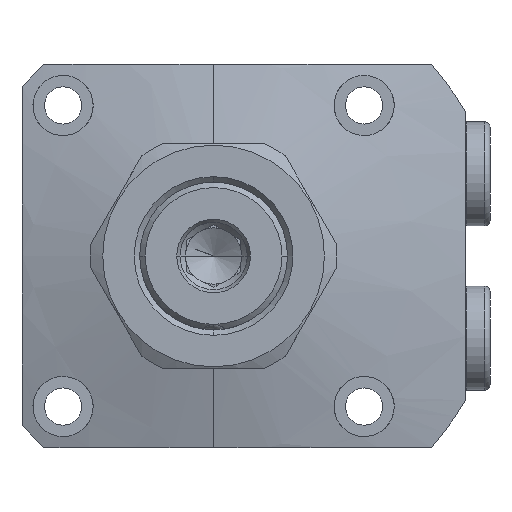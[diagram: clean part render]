
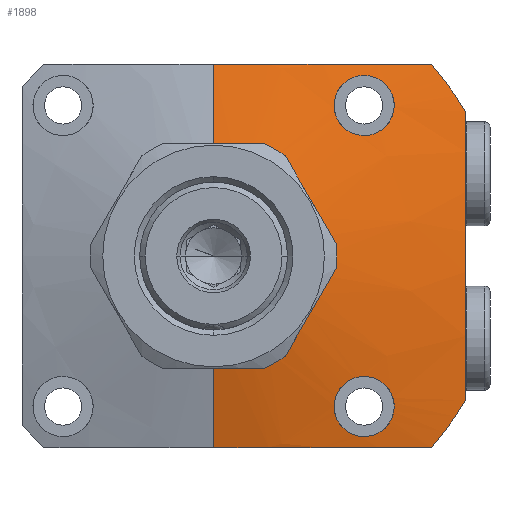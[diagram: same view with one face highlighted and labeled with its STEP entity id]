
A CAD part, left-side view. The second image highlights one B-rep face of the part: STEP entity #1898.
In plain terms, the highlighted conical face has half-angle 75 degrees and reference radius 20 mm.
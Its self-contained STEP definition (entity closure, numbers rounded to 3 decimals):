
#865=CONICAL_SURFACE('',#5699,20.,75.);
#932=B_SPLINE_CURVE_WITH_KNOTS('',3,(#8356,#8357,#8358,#8359,#8360,#8361,
#8362,#8363,#8364,#8365),.UNSPECIFIED.,.F.,.F.,(4,2,2,2,4),(0.,0.25,0.5,
0.75,1.),.UNSPECIFIED.);
#934=B_SPLINE_CURVE_WITH_KNOTS('',3,(#8392,#8393,#8394,#8395,#8396,#8397,
#8398,#8399,#8400,#8401),.UNSPECIFIED.,.F.,.F.,(4,2,2,2,4),(0.,0.25,0.5,
0.75,1.),.UNSPECIFIED.);
#946=B_SPLINE_CURVE_WITH_KNOTS('',3,(#8816,#8817,#8818,#8819),
 .UNSPECIFIED.,.F.,.F.,(4,4),(0.,1.),.UNSPECIFIED.);
#947=B_SPLINE_CURVE_WITH_KNOTS('',3,(#8820,#8821,#8822,#8823,#8824),
 .UNSPECIFIED.,.F.,.F.,(4,1,4),(0.,0.5,1.),.UNSPECIFIED.);
#948=B_SPLINE_CURVE_WITH_KNOTS('',3,(#8825,#8826,#8827,#8828),
 .UNSPECIFIED.,.F.,.F.,(4,4),(0.,1.),.UNSPECIFIED.);
#949=B_SPLINE_CURVE_WITH_KNOTS('',3,(#8829,#8830,#8831,#8832,#8833,#8834,
#8835,#8836,#8837,#8838),.UNSPECIFIED.,.F.,.F.,(4,2,2,2,4),(0.,0.25,0.5,
0.75,1.),.UNSPECIFIED.);
#950=B_SPLINE_CURVE_WITH_KNOTS('',3,(#8839,#8840,#8841,#8842,#8843,#8844,
#8845,#8846,#8847,#8848),.UNSPECIFIED.,.F.,.F.,(4,2,2,2,4),(0.,0.25,0.5,
0.75,1.),.UNSPECIFIED.);
#1162=FACE_BOUND('',#2513,.T.);
#1163=FACE_BOUND('',#2514,.T.);
#1164=FACE_BOUND('',#2515,.T.);
#1402=LINE('',#8471,#1630);
#1403=LINE('',#8500,#1631);
#1630=VECTOR('',#6541,1.);
#1631=VECTOR('',#6542,1.);
#1898=ADVANCED_FACE('',(#1162,#1163,#1164),#865,.T.);
#2513=EDGE_LOOP('',(#3392,#3393,#3394,#3395,#3396,#3397,#3398,#3399));
#2514=EDGE_LOOP('',(#3400,#3401));
#2515=EDGE_LOOP('',(#3402,#3403));
#3392=ORIENTED_EDGE('',*,*,#4638,.T.);
#3393=ORIENTED_EDGE('',*,*,#4769,.F.);
#3394=ORIENTED_EDGE('',*,*,#4644,.F.);
#3395=ORIENTED_EDGE('',*,*,#4770,.T.);
#3396=ORIENTED_EDGE('',*,*,#4768,.T.);
#3397=ORIENTED_EDGE('',*,*,#4771,.T.);
#3398=ORIENTED_EDGE('',*,*,#4735,.T.);
#3399=ORIENTED_EDGE('',*,*,#4772,.T.);
#3400=ORIENTED_EDGE('',*,*,#4773,.F.);
#3401=ORIENTED_EDGE('',*,*,#4609,.F.);
#3402=ORIENTED_EDGE('',*,*,#4774,.F.);
#3403=ORIENTED_EDGE('',*,*,#4617,.F.);
#4125=VERTEX_POINT('',#8355);
#4126=VERTEX_POINT('',#8366);
#4133=VERTEX_POINT('',#8391);
#4134=VERTEX_POINT('',#8402);
#4149=VERTEX_POINT('',#8469);
#4150=VERTEX_POINT('',#8470);
#4151=VERTEX_POINT('',#8472);
#4156=VERTEX_POINT('',#8499);
#4223=VERTEX_POINT('',#8713);
#4225=VERTEX_POINT('',#8716);
#4233=VERTEX_POINT('',#8810);
#4234=VERTEX_POINT('',#8812);
#4609=EDGE_CURVE('',#4125,#4126,#932,.T.);
#4617=EDGE_CURVE('',#4133,#4134,#934,.T.);
#4638=EDGE_CURVE('',#4151,#4149,#1402,.T.);
#4644=EDGE_CURVE('',#4156,#4150,#1403,.T.);
#4735=EDGE_CURVE('',#4225,#4223,#5180,.T.);
#4768=EDGE_CURVE('',#4233,#4234,#5203,.T.);
#4769=EDGE_CURVE('',#4150,#4149,#5204,.T.);
#4770=EDGE_CURVE('',#4156,#4233,#946,.T.);
#4771=EDGE_CURVE('',#4234,#4225,#947,.T.);
#4772=EDGE_CURVE('',#4223,#4151,#948,.T.);
#4773=EDGE_CURVE('',#4126,#4125,#949,.T.);
#4774=EDGE_CURVE('',#4134,#4133,#950,.T.);
#5180=CIRCLE('',#5648,53.);
#5203=CIRCLE('',#5696,53.);
#5204=CIRCLE('',#5698,20.);
#5648=AXIS2_PLACEMENT_3D('',#8715,#6744,#6745);
#5696=AXIS2_PLACEMENT_3D('',#8813,#6849,#6850);
#5698=AXIS2_PLACEMENT_3D('',#8815,#6853,#6854);
#5699=AXIS2_PLACEMENT_3D('',#8849,#6855,#6856);
#6541=DIRECTION('',(-0.259,0.,-0.966));
#6542=DIRECTION('',(-0.259,0.,0.966));
#6744=DIRECTION('',(-1.,0.,0.));
#6745=DIRECTION('',(0.,0.,1.));
#6849=DIRECTION('',(-1.,0.,0.));
#6850=DIRECTION('',(0.,0.,1.));
#6853=DIRECTION('',(-1.,0.,0.));
#6854=DIRECTION('',(0.,0.,1.));
#6855=DIRECTION('',(1.,0.,0.));
#6856=DIRECTION('',(0.,0.,1.));
#8355=CARTESIAN_POINT('',(-24.849,-27.5,-33.));
#8356=CARTESIAN_POINT('',(-24.849,-27.5,-33.));
#8357=CARTESIAN_POINT('',(-24.599,-28.956,-33.));
#8358=CARTESIAN_POINT('',(-24.461,-30.403,-32.394));
#8359=CARTESIAN_POINT('',(-24.468,-32.446,-30.313));
#8360=CARTESIAN_POINT('',(-24.613,-33.025,-28.846));
#8361=CARTESIAN_POINT('',(-25.118,-32.974,-25.959));
#8362=CARTESIAN_POINT('',(-25.474,-32.36,-24.561));
#8363=CARTESIAN_POINT('',(-26.227,-30.333,-22.577));
#8364=CARTESIAN_POINT('',(-26.62,-28.946,-22.));
#8365=CARTESIAN_POINT('',(-26.923,-27.5,-22.));
#8366=CARTESIAN_POINT('',(-26.923,-27.5,-22.));
#8391=CARTESIAN_POINT('',(-26.923,-27.5,22.));
#8392=CARTESIAN_POINT('',(-26.923,-27.5,22.));
#8393=CARTESIAN_POINT('',(-26.62,-28.947,22.));
#8394=CARTESIAN_POINT('',(-26.226,-30.336,22.581));
#8395=CARTESIAN_POINT('',(-25.475,-32.356,24.557));
#8396=CARTESIAN_POINT('',(-25.118,-32.972,25.962));
#8397=CARTESIAN_POINT('',(-24.616,-33.026,28.83));
#8398=CARTESIAN_POINT('',(-24.468,-32.455,30.301));
#8399=CARTESIAN_POINT('',(-24.461,-30.405,32.395));
#8400=CARTESIAN_POINT('',(-24.599,-28.957,33.));
#8401=CARTESIAN_POINT('',(-24.849,-27.5,33.));
#8402=CARTESIAN_POINT('',(-24.849,-27.5,33.));
#8469=CARTESIAN_POINT('',(-31.,0.,20.));
#8470=CARTESIAN_POINT('',(-31.,0.,-20.));
#8471=CARTESIAN_POINT('',(-31.,0.,20.));
#8472=CARTESIAN_POINT('',(-26.981,0.,35.));
#8499=CARTESIAN_POINT('',(-26.981,0.,-35.));
#8500=CARTESIAN_POINT('',(-31.,0.,-20.));
#8713=CARTESIAN_POINT('',(-22.158,-39.799,35.));
#8715=CARTESIAN_POINT('',(-22.158,0.,0.));
#8716=CARTESIAN_POINT('',(-22.158,-46.,26.325));
#8810=CARTESIAN_POINT('',(-22.158,-39.799,-35.));
#8812=CARTESIAN_POINT('',(-22.158,-46.,-26.325));
#8813=CARTESIAN_POINT('',(-22.158,0.,0.));
#8815=CARTESIAN_POINT('',(-31.,0.,0.));
#8816=CARTESIAN_POINT('',(-26.981,0.,-35.));
#8817=CARTESIAN_POINT('',(-26.981,-13.448,-35.));
#8818=CARTESIAN_POINT('',(-24.802,-26.66,-35.));
#8819=CARTESIAN_POINT('',(-22.158,-39.799,-35.));
#8820=CARTESIAN_POINT('',(-22.158,-46.,-26.325));
#8821=CARTESIAN_POINT('',(-23.326,-46.,-17.55));
#8822=CARTESIAN_POINT('',(-24.741,-46.,0.));
#8823=CARTESIAN_POINT('',(-23.326,-46.,17.55));
#8824=CARTESIAN_POINT('',(-22.158,-46.,26.325));
#8825=CARTESIAN_POINT('',(-22.158,-39.799,35.));
#8826=CARTESIAN_POINT('',(-24.802,-26.659,35.));
#8827=CARTESIAN_POINT('',(-26.981,-13.461,35.));
#8828=CARTESIAN_POINT('',(-26.981,0.,35.));
#8829=CARTESIAN_POINT('',(-26.923,-27.5,-22.));
#8830=CARTESIAN_POINT('',(-27.226,-26.052,-22.));
#8831=CARTESIAN_POINT('',(-27.415,-24.604,-22.601));
#8832=CARTESIAN_POINT('',(-27.408,-22.556,-24.683));
#8833=CARTESIAN_POINT('',(-27.21,-21.979,-26.147));
#8834=CARTESIAN_POINT('',(-26.6,-22.023,-29.022));
#8835=CARTESIAN_POINT('',(-26.202,-22.624,-30.413));
#8836=CARTESIAN_POINT('',(-25.45,-24.643,-32.409));
#8837=CARTESIAN_POINT('',(-25.099,-26.041,-33.));
#8838=CARTESIAN_POINT('',(-24.849,-27.5,-33.));
#8839=CARTESIAN_POINT('',(-24.849,-27.5,33.));
#8840=CARTESIAN_POINT('',(-25.099,-26.041,33.));
#8841=CARTESIAN_POINT('',(-25.451,-24.639,32.405));
#8842=CARTESIAN_POINT('',(-26.201,-22.628,30.417));
#8843=CARTESIAN_POINT('',(-26.601,-22.024,29.017));
#8844=CARTESIAN_POINT('',(-27.206,-21.977,26.165));
#8845=CARTESIAN_POINT('',(-27.407,-22.545,24.697));
#8846=CARTESIAN_POINT('',(-27.416,-24.602,22.6));
#8847=CARTESIAN_POINT('',(-27.226,-26.051,22.));
#8848=CARTESIAN_POINT('',(-26.923,-27.5,22.));
#8849=CARTESIAN_POINT('',(-31.,0.,0.));
